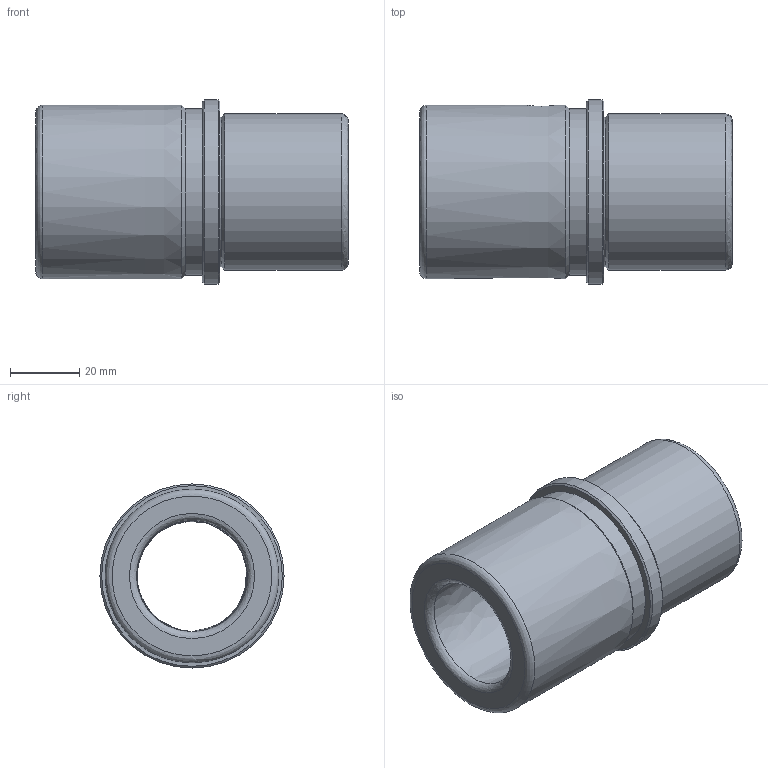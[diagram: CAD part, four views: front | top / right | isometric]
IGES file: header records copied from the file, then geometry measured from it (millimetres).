
Start section: Data from Parasolid IGES Translator 20.0.26, Copyright(c) 2006 Siemens P LM Software. All Rights Reserved.
Global section: file name: WZ - 4051 32 x 90.igs; native system: By Siemens PLM Incorporated; preprocessor: XPlus GENERIC/IGES 20.0.26; author: Noname; organization: Noname; date: 20201204.204208; units: millimetre
Bounding box: 90 x 53 x 53 mm (x, y, z)
Surface area: 25625.4 mm2 (no closed solid volume)
Topology: 0 solids, 0 shells, 21 faces, 82 edges, 60 vertices
Faces by surface type: revolution 16, extrusion 5
